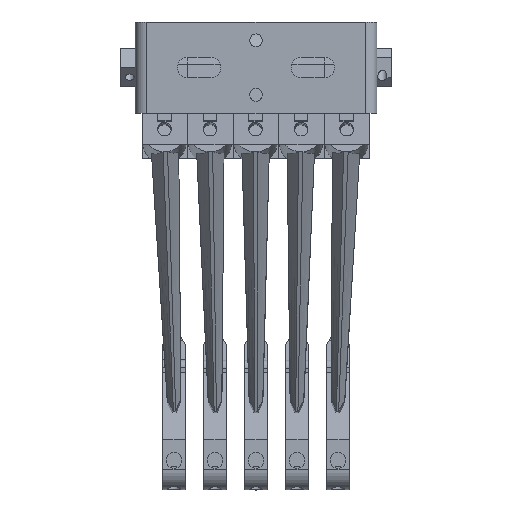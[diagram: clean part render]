
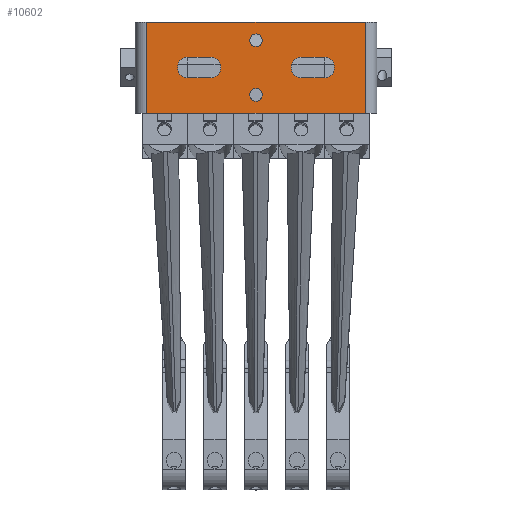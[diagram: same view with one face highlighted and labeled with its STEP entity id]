
A CAD part, front view. The second image highlights one B-rep face of the part: STEP entity #10602.
In plain terms, the highlighted planar face has unit normal (0, -1, 0).
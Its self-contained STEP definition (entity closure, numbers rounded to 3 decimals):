
#501 = CIRCLE ( 'NONE', #1382, 4.5 ) ;
#509 = LINE ( 'NONE', #7279, #512 ) ;
#511 = LINE ( 'NONE', #7274, #515 ) ;
#512 = VECTOR ( 'NONE', #7277, 1000. ) ;
#513 = LINE ( 'NONE', #7264, #521 ) ;
#514 = CIRCLE ( 'NONE', #1383, 4.5 ) ;
#515 = VECTOR ( 'NONE', #7278, 1000. ) ;
#516 = LINE ( 'NONE', #7276, #518 ) ;
#517 = CIRCLE ( 'NONE', #1384, 4.5 ) ;
#518 = VECTOR ( 'NONE', #7275, 1000. ) ;
#519 = CIRCLE ( 'NONE', #1387, 2.75 ) ;
#520 = CIRCLE ( 'NONE', #1385, 4.5 ) ;
#521 = VECTOR ( 'NONE', #7270, 1000. ) ;
#522 = LINE ( 'NONE', #7265, #524 ) ;
#523 = CIRCLE ( 'NONE', #1386, 2.75 ) ;
#524 = VECTOR ( 'NONE', #7266, 1000. ) ;
#525 = LINE ( 'NONE', #7251, #528 ) ;
#528 = VECTOR ( 'NONE', #7256, 1000. ) ;
#555 = LINE ( 'NONE', #7076, #561 ) ;
#561 = VECTOR ( 'NONE', #7021, 1000. ) ;
#584 = CIRCLE ( 'NONE', #1398, 2.75 ) ;
#585 = CIRCLE ( 'NONE', #1396, 2.75 ) ;
#1161 = EDGE_CURVE ( 'NONE', #6881, #6810, #509, .T. ) ;
#1162 = EDGE_CURVE ( 'NONE', #6827, #6880, #501, .T. ) ;
#1163 = EDGE_CURVE ( 'NONE', #6847, #6827, #511, .T. ) ;
#1164 = EDGE_CURVE ( 'NONE', #6784, #6847, #514, .T. ) ;
#1165 = EDGE_CURVE ( 'NONE', #6880, #6784, #516, .T. ) ;
#1166 = EDGE_CURVE ( 'NONE', #6874, #6801, #517, .T. ) ;
#1167 = EDGE_CURVE ( 'NONE', #6846, #6874, #513, .T. ) ;
#1168 = EDGE_CURVE ( 'NONE', #6782, #6846, #520, .T. ) ;
#1169 = EDGE_CURVE ( 'NONE', #6801, #6782, #522, .T. ) ;
#1170 = EDGE_CURVE ( 'NONE', #6869, #6772, #523, .T. ) ;
#1171 = EDGE_CURVE ( 'NONE', #6885, #6871, #519, .T. ) ;
#1172 = EDGE_CURVE ( 'NONE', #6891, #6857, #525, .T. ) ;
#1190 = EDGE_CURVE ( 'NONE', #6810, #6857, #555, .T. ) ;
#1206 = EDGE_CURVE ( 'NONE', #6772, #6869, #585, .T. ) ;
#1209 = EDGE_CURVE ( 'NONE', #6871, #6885, #584, .T. ) ;
#1382 = AXIS2_PLACEMENT_3D ( 'NONE', #7273, #7272, #7271 ) ;
#1383 = AXIS2_PLACEMENT_3D ( 'NONE', #7269, #7268, #7267 ) ;
#1384 = AXIS2_PLACEMENT_3D ( 'NONE', #7263, #7262, #7261 ) ;
#1385 = AXIS2_PLACEMENT_3D ( 'NONE', #7259, #7258, #7257 ) ;
#1386 = AXIS2_PLACEMENT_3D ( 'NONE', #7255, #7254, #7253 ) ;
#1387 = AXIS2_PLACEMENT_3D ( 'NONE', #7250, #7249, #7248 ) ;
#1396 = AXIS2_PLACEMENT_3D ( 'NONE', #7083, #7082, #7084 ) ;
#1398 = AXIS2_PLACEMENT_3D ( 'NONE', #7103, #7108, #7109 ) ;
#1750 = AXIS2_PLACEMENT_3D ( 'NONE', #5868, #5869, #5870 ) ;
#2521 = LINE ( 'NONE', #9980, #2523 ) ;
#2523 = VECTOR ( 'NONE', #9976, 1000. ) ;
#2837 = FACE_BOUND ( 'NONE', #3140, .T. ) ;
#2839 = FACE_BOUND ( 'NONE', #3165, .T. ) ;
#2840 = FACE_BOUND ( 'NONE', #3239, .T. ) ;
#2842 = FACE_BOUND ( 'NONE', #3176, .T. ) ;
#2843 = FACE_OUTER_BOUND ( 'NONE', #3136, .T. ) ;
#3136 = EDGE_LOOP ( 'NONE', ( #4397, #4380, #4399, #4388 ) ) ;
#3140 = EDGE_LOOP ( 'NONE', ( #8226, #8227 ) ) ;
#3165 = EDGE_LOOP ( 'NONE', ( #4379, #4389, #4387, #4391 ) ) ;
#3176 = EDGE_LOOP ( 'NONE', ( #8225, #8224 ) ) ;
#3239 = EDGE_LOOP ( 'NONE', ( #4417, #4408, #4421, #4377 ) ) ;
#4377 = ORIENTED_EDGE ( 'NONE', *, *, #1166, .T. ) ;
#4379 = ORIENTED_EDGE ( 'NONE', *, *, #1165, .T. ) ;
#4380 = ORIENTED_EDGE ( 'NONE', *, *, #1161, .F. ) ;
#4387 = ORIENTED_EDGE ( 'NONE', *, *, #1163, .T. ) ;
#4388 = ORIENTED_EDGE ( 'NONE', *, *, #1172, .T. ) ;
#4389 = ORIENTED_EDGE ( 'NONE', *, *, #1164, .T. ) ;
#4391 = ORIENTED_EDGE ( 'NONE', *, *, #1162, .T. ) ;
#4397 = ORIENTED_EDGE ( 'NONE', *, *, #1190, .F. ) ;
#4399 = ORIENTED_EDGE ( 'NONE', *, *, #9275, .T. ) ;
#4408 = ORIENTED_EDGE ( 'NONE', *, *, #1168, .T. ) ;
#4417 = ORIENTED_EDGE ( 'NONE', *, *, #1169, .T. ) ;
#4421 = ORIENTED_EDGE ( 'NONE', *, *, #1167, .T. ) ;
#5866 = PLANE ( 'NONE',  #1750 ) ;
#5868 = CARTESIAN_POINT ( 'NONE',  ( 0., -3., -40. ) ) ;
#5869 = DIRECTION ( 'NONE',  ( 0., -1., 0. ) ) ;
#5870 = DIRECTION ( 'NONE',  ( 0., 0., -1. ) ) ;
#6772 = VERTEX_POINT ( 'NONE', #8208 ) ;
#6782 = VERTEX_POINT ( 'NONE', #8200 ) ;
#6784 = VERTEX_POINT ( 'NONE', #8199 ) ;
#6801 = VERTEX_POINT ( 'NONE', #8187 ) ;
#6810 = VERTEX_POINT ( 'NONE', #8162 ) ;
#6827 = VERTEX_POINT ( 'NONE', #8140 ) ;
#6846 = VERTEX_POINT ( 'NONE', #8128 ) ;
#6847 = VERTEX_POINT ( 'NONE', #8123 ) ;
#6857 = VERTEX_POINT ( 'NONE', #8109 ) ;
#6869 = VERTEX_POINT ( 'NONE', #8096 ) ;
#6871 = VERTEX_POINT ( 'NONE', #8094 ) ;
#6874 = VERTEX_POINT ( 'NONE', #8090 ) ;
#6880 = VERTEX_POINT ( 'NONE', #8083 ) ;
#6881 = VERTEX_POINT ( 'NONE', #8080 ) ;
#6885 = VERTEX_POINT ( 'NONE', #8077 ) ;
#6891 = VERTEX_POINT ( 'NONE', #8072 ) ;
#7021 = DIRECTION ( 'NONE',  ( 1., 0., 0. ) ) ;
#7076 = CARTESIAN_POINT ( 'NONE',  ( 0., -3., 0. ) ) ;
#7082 = DIRECTION ( 'NONE',  ( 0., 1., 0. ) ) ;
#7083 = CARTESIAN_POINT ( 'NONE',  ( 50., -3., -32. ) ) ;
#7084 = DIRECTION ( 'NONE',  ( 0., 0., -1. ) ) ;
#7103 = CARTESIAN_POINT ( 'NONE',  ( 50., -3., -8. ) ) ;
#7108 = DIRECTION ( 'NONE',  ( 0., 1., 0. ) ) ;
#7109 = DIRECTION ( 'NONE',  ( 0., 0., -1. ) ) ;
#7248 = DIRECTION ( 'NONE',  ( 0., 0., -1. ) ) ;
#7249 = DIRECTION ( 'NONE',  ( 0., 1., 0. ) ) ;
#7250 = CARTESIAN_POINT ( 'NONE',  ( 50., -3., -8. ) ) ;
#7251 = CARTESIAN_POINT ( 'NONE',  ( 98., -3., -40. ) ) ;
#7253 = DIRECTION ( 'NONE',  ( 0., 0., -1. ) ) ;
#7254 = DIRECTION ( 'NONE',  ( 0., 1., 0. ) ) ;
#7255 = CARTESIAN_POINT ( 'NONE',  ( 50., -3., -32. ) ) ;
#7256 = DIRECTION ( 'NONE',  ( 0., 0., 1. ) ) ;
#7257 = DIRECTION ( 'NONE',  ( 0., 0., -1. ) ) ;
#7258 = DIRECTION ( 'NONE',  ( 0., 1., 0. ) ) ;
#7259 = CARTESIAN_POINT ( 'NONE',  ( 70., -3., -20. ) ) ;
#7261 = DIRECTION ( 'NONE',  ( 0., 0., -1. ) ) ;
#7262 = DIRECTION ( 'NONE',  ( 0., 1., 0. ) ) ;
#7263 = CARTESIAN_POINT ( 'NONE',  ( 80., -3., -20. ) ) ;
#7264 = CARTESIAN_POINT ( 'NONE',  ( 70., -3., -15.5 ) ) ;
#7265 = CARTESIAN_POINT ( 'NONE',  ( 80., -3., -24.5 ) ) ;
#7266 = DIRECTION ( 'NONE',  ( -1., 0., 0. ) ) ;
#7267 = DIRECTION ( 'NONE',  ( 0., 0., -1. ) ) ;
#7268 = DIRECTION ( 'NONE',  ( 0., 1., 0. ) ) ;
#7269 = CARTESIAN_POINT ( 'NONE',  ( 30., -3., -20. ) ) ;
#7270 = DIRECTION ( 'NONE',  ( 1., 0., 0. ) ) ;
#7271 = DIRECTION ( 'NONE',  ( 0., 0., -1. ) ) ;
#7272 = DIRECTION ( 'NONE',  ( 0., 1., 0. ) ) ;
#7273 = CARTESIAN_POINT ( 'NONE',  ( 20., -3., -20. ) ) ;
#7274 = CARTESIAN_POINT ( 'NONE',  ( 20., -3., -24.5 ) ) ;
#7275 = DIRECTION ( 'NONE',  ( 1., 0., 0. ) ) ;
#7276 = CARTESIAN_POINT ( 'NONE',  ( 30., -3., -15.5 ) ) ;
#7277 = DIRECTION ( 'NONE',  ( 0., 0., 1. ) ) ;
#7278 = DIRECTION ( 'NONE',  ( -1., 0., 0. ) ) ;
#7279 = CARTESIAN_POINT ( 'NONE',  ( 2., -3., -40. ) ) ;
#8072 = CARTESIAN_POINT ( 'NONE',  ( 98., -3., -40. ) ) ;
#8077 = CARTESIAN_POINT ( 'NONE',  ( 50., -3., -5.25 ) ) ;
#8080 = CARTESIAN_POINT ( 'NONE',  ( 2., -3., -40. ) ) ;
#8083 = CARTESIAN_POINT ( 'NONE',  ( 20., -3., -15.5 ) ) ;
#8090 = CARTESIAN_POINT ( 'NONE',  ( 80., -3., -15.5 ) ) ;
#8094 = CARTESIAN_POINT ( 'NONE',  ( 50., -3., -10.75 ) ) ;
#8096 = CARTESIAN_POINT ( 'NONE',  ( 50., -3., -29.25 ) ) ;
#8109 = CARTESIAN_POINT ( 'NONE',  ( 98., -3., 0. ) ) ;
#8123 = CARTESIAN_POINT ( 'NONE',  ( 30., -3., -24.5 ) ) ;
#8128 = CARTESIAN_POINT ( 'NONE',  ( 70., -3., -15.5 ) ) ;
#8140 = CARTESIAN_POINT ( 'NONE',  ( 20., -3., -24.5 ) ) ;
#8162 = CARTESIAN_POINT ( 'NONE',  ( 2., -3., 0. ) ) ;
#8187 = CARTESIAN_POINT ( 'NONE',  ( 80., -3., -24.5 ) ) ;
#8199 = CARTESIAN_POINT ( 'NONE',  ( 30., -3., -15.5 ) ) ;
#8200 = CARTESIAN_POINT ( 'NONE',  ( 70., -3., -24.5 ) ) ;
#8208 = CARTESIAN_POINT ( 'NONE',  ( 50., -3., -34.75 ) ) ;
#8224 = ORIENTED_EDGE ( 'NONE', *, *, #1209, .T. ) ;
#8225 = ORIENTED_EDGE ( 'NONE', *, *, #1171, .T. ) ;
#8226 = ORIENTED_EDGE ( 'NONE', *, *, #1170, .T. ) ;
#8227 = ORIENTED_EDGE ( 'NONE', *, *, #1206, .T. ) ;
#9275 = EDGE_CURVE ( 'NONE', #6881, #6891, #2521, .T. ) ;
#9976 = DIRECTION ( 'NONE',  ( 1., 0., 0. ) ) ;
#9980 = CARTESIAN_POINT ( 'NONE',  ( 0., -3., -40. ) ) ;
#10602 = ADVANCED_FACE ( 'NONE', ( #2842, #2837, #2840, #2839, #2843 ), #5866, .T. ) ;
